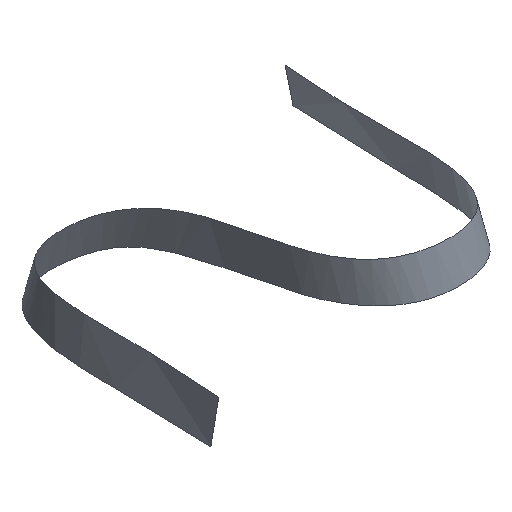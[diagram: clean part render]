
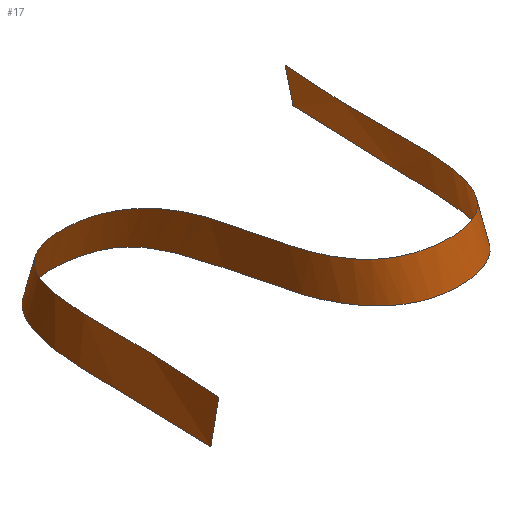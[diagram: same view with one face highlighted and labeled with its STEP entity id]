
A CAD part, isometric view. The second image highlights one B-rep face of the part: STEP entity #17.
In plain terms, the highlighted free-form (B-spline) face has degree [3, 1] with [16, 2] control points.
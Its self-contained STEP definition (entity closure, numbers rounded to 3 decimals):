
#17 = ADVANCED_FACE('',(#18),#45,.T.);
#18 = FACE_BOUND('',#19,.T.);
#19 = EDGE_LOOP('',(#20,#84,#99,#128));
#20 = ORIENTED_EDGE('',*,*,#21,.T.);
#21 = EDGE_CURVE('',#22,#24,#26,.T.);
#22 = VERTEX_POINT('',#23);
#23 = CARTESIAN_POINT('',(-131.,-95.5,30.));
#24 = VERTEX_POINT('',#25);
#25 = CARTESIAN_POINT('',(115.,99.5,30.));
#26 = SURFACE_CURVE('',#27,(#44),.PCURVE_S1.);
#27 = B_SPLINE_CURVE_WITH_KNOTS('',3,(#28,#29,#30,#31,#32,#33,#34,#35,
    #36,#37,#38,#39,#40,#41,#42,#43),.UNSPECIFIED.,.F.,.F.,(4,1,1,1,1,1,
    1,1,1,1,1,1,1,4),(0.,0.077,0.154,
    0.231,0.308,0.385,0.462,
    0.538,0.615,0.692,0.769,
    0.846,0.923,1.),.UNSPECIFIED.);
#28 = CARTESIAN_POINT('',(-131.,-95.5,30.));
#29 = CARTESIAN_POINT('',(-126.,-41.,30.));
#30 = CARTESIAN_POINT('',(-131.,23.,30.));
#31 = CARTESIAN_POINT('',(-116.,78.,30.));
#32 = CARTESIAN_POINT('',(-51.,77.,30.));
#33 = CARTESIAN_POINT('',(-20.,46.,30.));
#34 = CARTESIAN_POINT('',(-11.,10.,30.));
#35 = CARTESIAN_POINT('',(-9.,2.,30.));
#36 = CARTESIAN_POINT('',(-7.,-6.,30.));
#37 = CARTESIAN_POINT('',(-5.,-14.,30.));
#38 = CARTESIAN_POINT('',(3.,-46.,30.));
#39 = CARTESIAN_POINT('',(32.,-80.,30.));
#40 = CARTESIAN_POINT('',(103.,-81.,30.));
#41 = CARTESIAN_POINT('',(116.,-13.,30.));
#42 = CARTESIAN_POINT('',(110.,43.,30.));
#43 = CARTESIAN_POINT('',(115.,99.5,30.));
#44 = PCURVE('',#45,#78);
#45 = B_SPLINE_SURFACE_WITH_KNOTS('',3,1,(
    (#46,#47)
    ,(#48,#49)
    ,(#50,#51)
    ,(#52,#53)
    ,(#54,#55)
    ,(#56,#57)
    ,(#58,#59)
    ,(#60,#61)
    ,(#62,#63)
    ,(#64,#65)
    ,(#66,#67)
    ,(#68,#69)
    ,(#70,#71)
    ,(#72,#73)
    ,(#74,#75)
    ,(#76,#77
  )),.UNSPECIFIED.,.F.,.F.,.F.,(4,1,1,1,1,1,1,1,1,1,1,1,1,4),(2,2),(0.,
    0.077,0.154,0.231,0.308,
    0.385,0.462,0.538,0.615,
    0.692,0.769,0.846,0.923,1.),(0.,
    1.),.UNSPECIFIED.);
#46 = CARTESIAN_POINT('',(-131.,-95.5,30.));
#47 = CARTESIAN_POINT('',(-137.,-95.5,0.));
#48 = CARTESIAN_POINT('',(-126.,-41.,30.));
#49 = CARTESIAN_POINT('',(-134.,-41.,0.));
#50 = CARTESIAN_POINT('',(-131.,23.,30.));
#51 = CARTESIAN_POINT('',(-138.,23.,0.));
#52 = CARTESIAN_POINT('',(-116.,78.,30.));
#53 = CARTESIAN_POINT('',(-118.,87.,0.));
#54 = CARTESIAN_POINT('',(-51.,77.,30.));
#55 = CARTESIAN_POINT('',(-49.,84.,0.));
#56 = CARTESIAN_POINT('',(-20.,46.,30.));
#57 = CARTESIAN_POINT('',(-23.,58.,0.));
#58 = CARTESIAN_POINT('',(-11.,10.,30.));
#59 = CARTESIAN_POINT('',(-11.,10.,0.));
#60 = CARTESIAN_POINT('',(-9.,2.,30.));
#61 = CARTESIAN_POINT('',(-9.,2.,0.));
#62 = CARTESIAN_POINT('',(-7.,-6.,30.));
#63 = CARTESIAN_POINT('',(-7.,-6.,0.));
#64 = CARTESIAN_POINT('',(-5.,-14.,30.));
#65 = CARTESIAN_POINT('',(-5.,-14.,0.));
#66 = CARTESIAN_POINT('',(3.,-46.,30.));
#67 = CARTESIAN_POINT('',(3.,-46.,0.));
#68 = CARTESIAN_POINT('',(32.,-80.,30.));
#69 = CARTESIAN_POINT('',(36.,-88.,0.));
#70 = CARTESIAN_POINT('',(103.,-81.,30.));
#71 = CARTESIAN_POINT('',(111.,-84.,0.));
#72 = CARTESIAN_POINT('',(116.,-13.,30.));
#73 = CARTESIAN_POINT('',(119.,-13.,0.));
#74 = CARTESIAN_POINT('',(110.,43.,30.));
#75 = CARTESIAN_POINT('',(118.,43.,0.));
#76 = CARTESIAN_POINT('',(115.,99.5,30.));
#77 = CARTESIAN_POINT('',(121.,99.5,0.));
#78 = DEFINITIONAL_REPRESENTATION('',(#79),#83);
#79 = LINE('',#80,#81);
#80 = CARTESIAN_POINT('',(0.,0.));
#81 = VECTOR('',#82,1.);
#82 = DIRECTION('',(1.,0.));
#83 = ( GEOMETRIC_REPRESENTATION_CONTEXT(2) 
PARAMETRIC_REPRESENTATION_CONTEXT() REPRESENTATION_CONTEXT('2D SPACE',''
  ) );
#84 = ORIENTED_EDGE('',*,*,#85,.T.);
#85 = EDGE_CURVE('',#24,#86,#88,.T.);
#86 = VERTEX_POINT('',#87);
#87 = CARTESIAN_POINT('',(121.,99.5,0.));
#88 = SURFACE_CURVE('',#89,(#92),.PCURVE_S1.);
#89 = B_SPLINE_CURVE_WITH_KNOTS('',1,(#90,#91),.UNSPECIFIED.,.F.,.F.,(2,
    2),(0.,1.),.PIECEWISE_BEZIER_KNOTS.);
#90 = CARTESIAN_POINT('',(115.,99.5,30.));
#91 = CARTESIAN_POINT('',(121.,99.5,0.));
#92 = PCURVE('',#45,#93);
#93 = DEFINITIONAL_REPRESENTATION('',(#94),#98);
#94 = LINE('',#95,#96);
#95 = CARTESIAN_POINT('',(1.,0.));
#96 = VECTOR('',#97,1.);
#97 = DIRECTION('',(0.,1.));
#98 = ( GEOMETRIC_REPRESENTATION_CONTEXT(2) 
PARAMETRIC_REPRESENTATION_CONTEXT() REPRESENTATION_CONTEXT('2D SPACE',''
  ) );
#99 = ORIENTED_EDGE('',*,*,#100,.T.);
#100 = EDGE_CURVE('',#86,#101,#103,.T.);
#101 = VERTEX_POINT('',#102);
#102 = CARTESIAN_POINT('',(-137.,-95.5,0.));
#103 = SURFACE_CURVE('',#104,(#121),.PCURVE_S1.);
#104 = B_SPLINE_CURVE_WITH_KNOTS('',3,(#105,#106,#107,#108,#109,#110,
    #111,#112,#113,#114,#115,#116,#117,#118,#119,#120),.UNSPECIFIED.,.F.
  ,.F.,(4,1,1,1,1,1,1,1,1,1,1,1,1,4),(0.,0.077,
    0.154,0.231,0.308,0.385,
    0.462,0.538,0.615,0.692,
    0.769,0.846,0.923,1.),.UNSPECIFIED.);
#105 = CARTESIAN_POINT('',(121.,99.5,0.));
#106 = CARTESIAN_POINT('',(118.,43.,0.));
#107 = CARTESIAN_POINT('',(119.,-13.,0.));
#108 = CARTESIAN_POINT('',(111.,-84.,0.));
#109 = CARTESIAN_POINT('',(36.,-88.,0.));
#110 = CARTESIAN_POINT('',(3.,-46.,0.));
#111 = CARTESIAN_POINT('',(-5.,-14.,0.));
#112 = CARTESIAN_POINT('',(-7.,-6.,0.));
#113 = CARTESIAN_POINT('',(-9.,2.,0.));
#114 = CARTESIAN_POINT('',(-11.,10.,0.));
#115 = CARTESIAN_POINT('',(-23.,58.,0.));
#116 = CARTESIAN_POINT('',(-49.,84.,0.));
#117 = CARTESIAN_POINT('',(-118.,87.,0.));
#118 = CARTESIAN_POINT('',(-138.,23.,0.));
#119 = CARTESIAN_POINT('',(-134.,-41.,0.));
#120 = CARTESIAN_POINT('',(-137.,-95.5,0.));
#121 = PCURVE('',#45,#122);
#122 = DEFINITIONAL_REPRESENTATION('',(#123),#127);
#123 = LINE('',#124,#125);
#124 = CARTESIAN_POINT('',(1.,1.));
#125 = VECTOR('',#126,1.);
#126 = DIRECTION('',(-1.,0.));
#127 = ( GEOMETRIC_REPRESENTATION_CONTEXT(2) 
PARAMETRIC_REPRESENTATION_CONTEXT() REPRESENTATION_CONTEXT('2D SPACE',''
  ) );
#128 = ORIENTED_EDGE('',*,*,#129,.T.);
#129 = EDGE_CURVE('',#101,#22,#130,.T.);
#130 = SURFACE_CURVE('',#131,(#134),.PCURVE_S1.);
#131 = B_SPLINE_CURVE_WITH_KNOTS('',1,(#132,#133),.UNSPECIFIED.,.F.,.F.,
  (2,2),(0.,1.),.PIECEWISE_BEZIER_KNOTS.);
#132 = CARTESIAN_POINT('',(-137.,-95.5,0.));
#133 = CARTESIAN_POINT('',(-131.,-95.5,30.));
#134 = PCURVE('',#45,#135);
#135 = DEFINITIONAL_REPRESENTATION('',(#136),#140);
#136 = LINE('',#137,#138);
#137 = CARTESIAN_POINT('',(0.,1.));
#138 = VECTOR('',#139,1.);
#139 = DIRECTION('',(0.,-1.));
#140 = ( GEOMETRIC_REPRESENTATION_CONTEXT(2) 
PARAMETRIC_REPRESENTATION_CONTEXT() REPRESENTATION_CONTEXT('2D SPACE',''
  ) );
